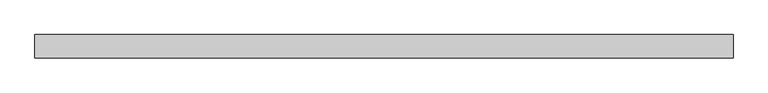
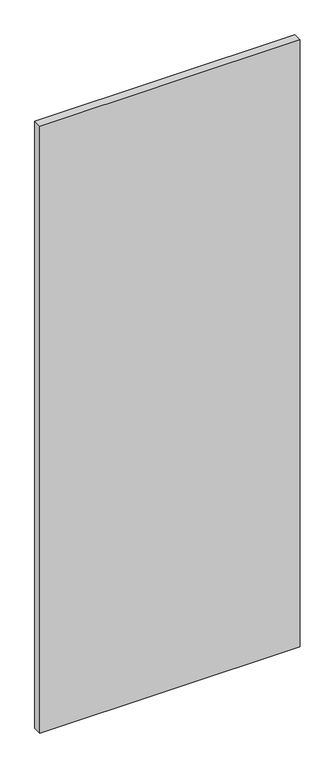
"""IFC4 building model written with IfcOpenShell, lengths in millimetres: plate geometry, Vitré."""

from ifc_helpers import new_model, si_unit, origin, origin_with_axes, place, context, project, spatial, polyline, outline, extrude, source, transform, mapped, element, save


def plate_ac70409b(model_context):
    return source(origin(), model_context, "Body", "SweptSolid", [
        extrude(outline(polyline([(-600.0, -20.0), (-600.0, 20.0), (600.0, 20.0), (600.0, -20.0), (-600.0, -20.0)])), origin_with_axes(), (0.0, 0.0, 1.0), 2960.0),
    ])


if __name__ == "__main__":
    model = new_model("IFC4")
    model_context = context("Model", 3, world=origin())
    ifc_project = project(units=[si_unit("LENGTHUNIT", "METRE", prefix="MILLI")], contexts=[model_context])
    site = spatial("IfcSite", under=ifc_project)
    building = spatial("IfcBuilding", under=site)
    placement = place(None, origin())
    plate_shape = plate_ac70409b(model_context)
    element("IfcPlate", 1, ObjectType="Vitré", at=placement, inside=building, context=model_context, shape_type="MappedRepresentation", body=[
        mapped(plate_shape, transform((0.0, 0.0, 0.0), x_axis=(1.0, 0.0, 0.0), y_axis=(0.0, 1.0, 0.0), z_axis=(0.0, 0.0, 1.0))),
    ])
    save(model, "model.ifc")
